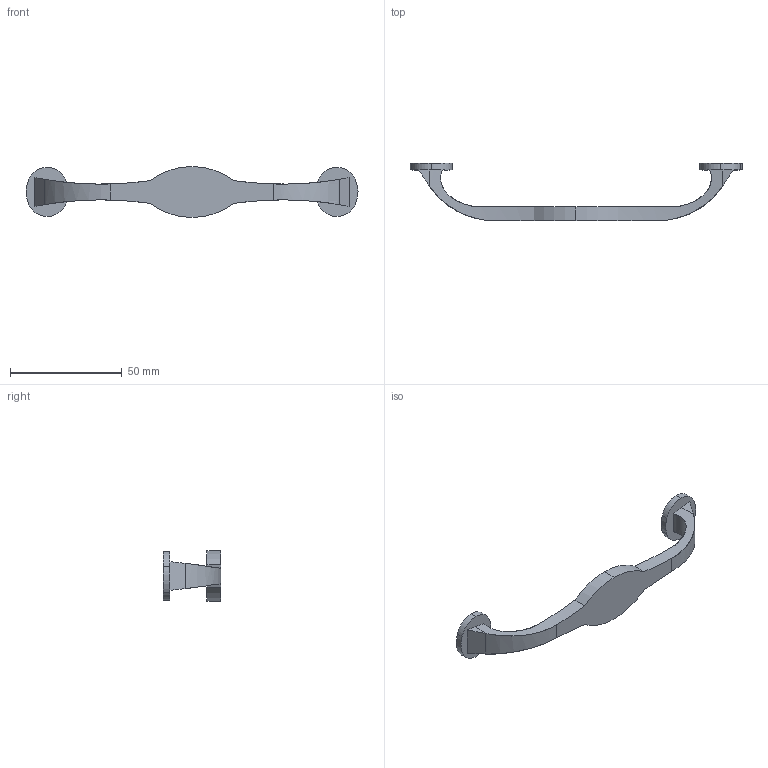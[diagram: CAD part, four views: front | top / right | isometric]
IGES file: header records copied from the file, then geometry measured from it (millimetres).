
Start section: Data from Parasolid IGES Translator 15.0.47, Copyright(c) 2006 Siemens P LM Software. All Rights Reserved.
Global section: file name: 9208026.igs; native system:  By UGS Corp.; preprocessor: XPlus GENERIC/IGES 3.0; author: Noname; organization: Noname; date: 20160301.160842; units: millimetre
Bounding box: 148.74 x 25.73 x 22.8 mm (x, y, z)
Surface area: 6740.5 mm2 (no closed solid volume)
Topology: 0 solids, 0 shells, 42 faces, 216 edges, 214 vertices
Faces by surface type: revolution 32, extrusion 10
